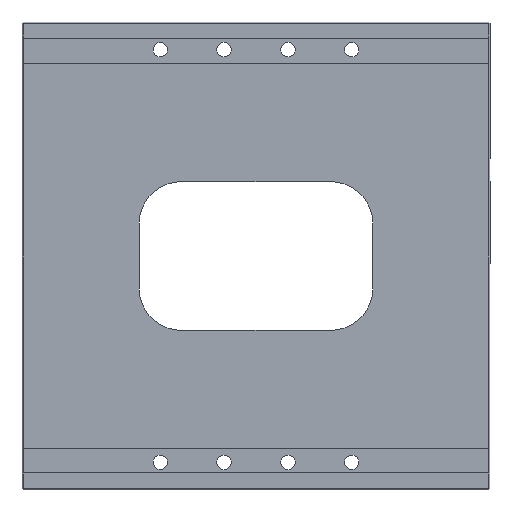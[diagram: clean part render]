
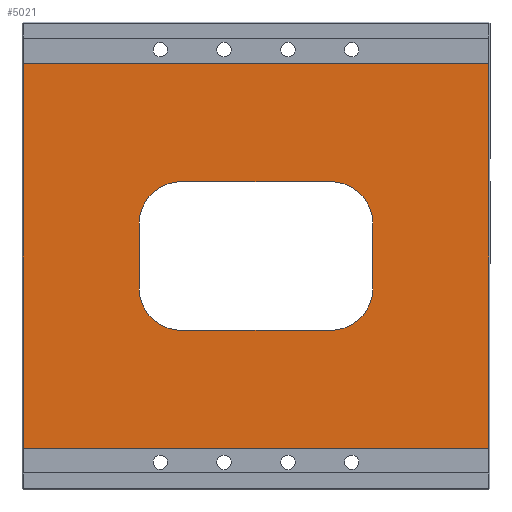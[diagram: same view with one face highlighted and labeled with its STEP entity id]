
A CAD part, front view. The second image highlights one B-rep face of the part: STEP entity #5021.
In plain terms, the highlighted planar face has unit normal (0, -1, 0).
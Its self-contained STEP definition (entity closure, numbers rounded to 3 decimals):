
#7 = AXIS2_PLACEMENT_3D ( 'NONE', #3673, #2879, #2090 ) ;
#94 = CARTESIAN_POINT ( 'NONE',  ( -27.5, 6., -7.5 ) ) ;
#116 = ORIENTED_EDGE ( 'NONE', *, *, #3426, .F. ) ;
#124 = VERTEX_POINT ( 'NONE', #1034 ) ;
#145 = DIRECTION ( 'NONE',  ( 0., 0., -1. ) ) ;
#162 = ORIENTED_EDGE ( 'NONE', *, *, #189, .T. ) ;
#189 = EDGE_CURVE ( 'NONE', #3684, #124, #1345, .T. ) ;
#328 = LINE ( 'NONE', #1901, #1480 ) ;
#347 = VECTOR ( 'NONE', #145, 1000. ) ;
#384 = CARTESIAN_POINT ( 'NONE',  ( -54.7, 6., 45.2 ) ) ;
#420 = VERTEX_POINT ( 'NONE', #94 ) ;
#486 = VECTOR ( 'NONE', #3580, 1000. ) ;
#538 = DIRECTION ( 'NONE',  ( 0., 0., -1. ) ) ;
#560 = EDGE_CURVE ( 'NONE', #2423, #420, #2528, .T. ) ;
#592 = DIRECTION ( 'NONE',  ( 1., 0., 0. ) ) ;
#782 = CARTESIAN_POINT ( 'NONE',  ( -17.5, 6., 17.5 ) ) ;
#883 = CARTESIAN_POINT ( 'NONE',  ( 27.5, 6., 7.5 ) ) ;
#1034 = CARTESIAN_POINT ( 'NONE',  ( -54.7, 6., -45.2 ) ) ;
#1065 = EDGE_LOOP ( 'NONE', ( #3525, #4468, #2578, #162 ) ) ;
#1140 = VERTEX_POINT ( 'NONE', #3020 ) ;
#1167 = CIRCLE ( 'NONE', #7, 10. ) ;
#1345 = LINE ( 'NONE', #3280, #347 ) ;
#1400 = CIRCLE ( 'NONE', #4277, 10. ) ;
#1480 = VECTOR ( 'NONE', #3460, 1000. ) ;
#1506 = CARTESIAN_POINT ( 'NONE',  ( -17.5, 6., -17.5 ) ) ;
#1521 = CARTESIAN_POINT ( 'NONE',  ( -17.5, 6., -17.5 ) ) ;
#1637 = ORIENTED_EDGE ( 'NONE', *, *, #4611, .F. ) ;
#1712 = CARTESIAN_POINT ( 'NONE',  ( 54.7, 6., -45.2 ) ) ;
#1758 = LINE ( 'NONE', #4108, #486 ) ;
#1781 = VERTEX_POINT ( 'NONE', #3868 ) ;
#1858 = CARTESIAN_POINT ( 'NONE',  ( 55., 6., -45.2 ) ) ;
#1896 = LINE ( 'NONE', #1521, #2312 ) ;
#1901 = CARTESIAN_POINT ( 'NONE',  ( -17.5, 6., 17.5 ) ) ;
#1982 = VERTEX_POINT ( 'NONE', #1712 ) ;
#2036 = CARTESIAN_POINT ( 'NONE',  ( 54.7, 6., 45.2 ) ) ;
#2086 = VERTEX_POINT ( 'NONE', #4891 ) ;
#2090 = DIRECTION ( 'NONE',  ( 0., 0., -1. ) ) ;
#2219 = DIRECTION ( 'NONE',  ( -1., 0., 0. ) ) ;
#2312 = VECTOR ( 'NONE', #2741, 1000. ) ;
#2323 = VECTOR ( 'NONE', #2891, 1000. ) ;
#2391 = ORIENTED_EDGE ( 'NONE', *, *, #4085, .F. ) ;
#2419 = DIRECTION ( 'NONE',  ( 0., 0., 1. ) ) ;
#2423 = VERTEX_POINT ( 'NONE', #4061 ) ;
#2482 = ORIENTED_EDGE ( 'NONE', *, *, #3576, .F. ) ;
#2491 = CARTESIAN_POINT ( 'NONE',  ( 0., 6., 0. ) ) ;
#2507 = CARTESIAN_POINT ( 'NONE',  ( -27.5, 6., 7.5 ) ) ;
#2528 = LINE ( 'NONE', #2507, #2323 ) ;
#2535 = VERTEX_POINT ( 'NONE', #1506 ) ;
#2567 = DIRECTION ( 'NONE',  ( 0., 0., -1. ) ) ;
#2578 = ORIENTED_EDGE ( 'NONE', *, *, #3097, .T. ) ;
#2741 = DIRECTION ( 'NONE',  ( 1., 0., 0. ) ) ;
#2803 = ORIENTED_EDGE ( 'NONE', *, *, #3009, .F. ) ;
#2832 = FACE_OUTER_BOUND ( 'NONE', #1065, .T. ) ;
#2879 = DIRECTION ( 'NONE',  ( 0., -1., 0. ) ) ;
#2883 = EDGE_LOOP ( 'NONE', ( #116, #3600, #3061, #2391, #2482, #1637, #4425, #2803 ) ) ;
#2891 = DIRECTION ( 'NONE',  ( 0., 0., -1. ) ) ;
#2909 = CARTESIAN_POINT ( 'NONE',  ( -17.5, 6., -7.5 ) ) ;
#2929 = FACE_BOUND ( 'NONE', #2883, .T. ) ;
#2932 = DIRECTION ( 'NONE',  ( 0., 0., -1. ) ) ;
#2951 = AXIS2_PLACEMENT_3D ( 'NONE', #2491, #3594, #538 ) ;
#2991 = LINE ( 'NONE', #4160, #3286 ) ;
#3009 = EDGE_CURVE ( 'NONE', #2535, #1781, #1896, .T. ) ;
#3020 = CARTESIAN_POINT ( 'NONE',  ( 17.5, 6., 17.5 ) ) ;
#3061 = ORIENTED_EDGE ( 'NONE', *, *, #3504, .F. ) ;
#3097 = EDGE_CURVE ( 'NONE', #3291, #3684, #2991, .T. ) ;
#3241 = LINE ( 'NONE', #2036, #3283 ) ;
#3280 = CARTESIAN_POINT ( 'NONE',  ( -54.7, 6., -45.2 ) ) ;
#3283 = VECTOR ( 'NONE', #2419, 1000. ) ;
#3286 = VECTOR ( 'NONE', #2219, 1000. ) ;
#3291 = VERTEX_POINT ( 'NONE', #3311 ) ;
#3311 = CARTESIAN_POINT ( 'NONE',  ( 54.7, 6., 45.2 ) ) ;
#3355 = EDGE_CURVE ( 'NONE', #1982, #3291, #3241, .T. ) ;
#3361 = EDGE_CURVE ( 'NONE', #1781, #2086, #1167, .T. ) ;
#3386 = CARTESIAN_POINT ( 'NONE',  ( -17.5, 6., 7.5 ) ) ;
#3426 = EDGE_CURVE ( 'NONE', #420, #2535, #3850, .T. ) ;
#3460 = DIRECTION ( 'NONE',  ( -1., 0., 0. ) ) ;
#3500 = EDGE_CURVE ( 'NONE', #124, #1982, #4132, .T. ) ;
#3504 = EDGE_CURVE ( 'NONE', #4918, #2423, #1400, .T. ) ;
#3525 = ORIENTED_EDGE ( 'NONE', *, *, #3500, .T. ) ;
#3576 = EDGE_CURVE ( 'NONE', #5048, #1140, #4691, .T. ) ;
#3580 = DIRECTION ( 'NONE',  ( 0., 0., 1. ) ) ;
#3594 = DIRECTION ( 'NONE',  ( 0., -1., 0. ) ) ;
#3600 = ORIENTED_EDGE ( 'NONE', *, *, #560, .F. ) ;
#3673 = CARTESIAN_POINT ( 'NONE',  ( 17.5, 6., -7.5 ) ) ;
#3684 = VERTEX_POINT ( 'NONE', #384 ) ;
#3850 = CIRCLE ( 'NONE', #4502, 10. ) ;
#3868 = CARTESIAN_POINT ( 'NONE',  ( 17.5, 6., -17.5 ) ) ;
#4025 = PLANE ( 'NONE',  #2951 ) ;
#4060 = DIRECTION ( 'NONE',  ( 0., -1., 0. ) ) ;
#4061 = CARTESIAN_POINT ( 'NONE',  ( -27.5, 6., 7.5 ) ) ;
#4085 = EDGE_CURVE ( 'NONE', #1140, #4918, #328, .T. ) ;
#4108 = CARTESIAN_POINT ( 'NONE',  ( 27.5, 6., 7.5 ) ) ;
#4132 = LINE ( 'NONE', #1858, #4424 ) ;
#4160 = CARTESIAN_POINT ( 'NONE',  ( 55., 6., 45.2 ) ) ;
#4277 = AXIS2_PLACEMENT_3D ( 'NONE', #3386, #4986, #2567 ) ;
#4424 = VECTOR ( 'NONE', #592, 1000. ) ;
#4425 = ORIENTED_EDGE ( 'NONE', *, *, #3361, .F. ) ;
#4468 = ORIENTED_EDGE ( 'NONE', *, *, #3355, .T. ) ;
#4502 = AXIS2_PLACEMENT_3D ( 'NONE', #2909, #4060, #2932 ) ;
#4517 = AXIS2_PLACEMENT_3D ( 'NONE', #4601, #4933, #5009 ) ;
#4601 = CARTESIAN_POINT ( 'NONE',  ( 17.5, 6., 7.5 ) ) ;
#4611 = EDGE_CURVE ( 'NONE', #2086, #5048, #1758, .T. ) ;
#4691 = CIRCLE ( 'NONE', #4517, 10. ) ;
#4891 = CARTESIAN_POINT ( 'NONE',  ( 27.5, 6., -7.5 ) ) ;
#4918 = VERTEX_POINT ( 'NONE', #782 ) ;
#4933 = DIRECTION ( 'NONE',  ( 0., -1., 0. ) ) ;
#4986 = DIRECTION ( 'NONE',  ( 0., -1., 0. ) ) ;
#5009 = DIRECTION ( 'NONE',  ( 0., 0., 1. ) ) ;
#5021 = ADVANCED_FACE ( 'NONE', ( #2929, #2832 ), #4025, .T. ) ;
#5048 = VERTEX_POINT ( 'NONE', #883 ) ;
